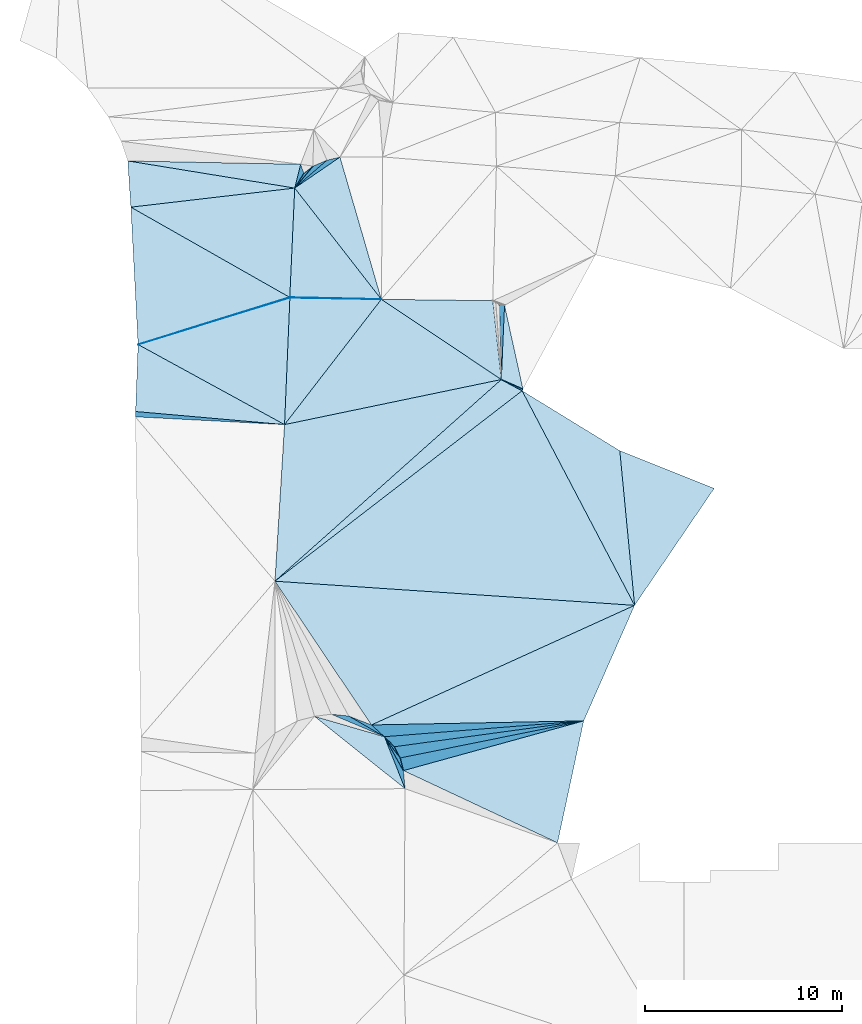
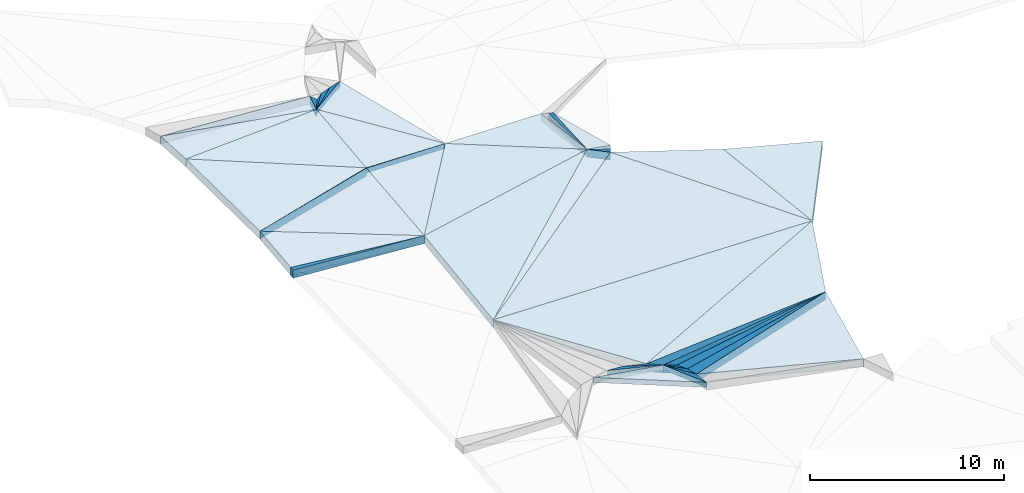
# One storey, part 7 of 23: 39 slabs, 5 elements without a shape of their own.
"""IFC2X3 building model written with IfcOpenShell, lengths in metres."""

import ifcopenshell
import ifcopenshell.guid

model = None  # the IFC model being written
_history = None  # IfcOwnerHistory: only IFC2X3 demands one
_inside = {}  # id of a spatial element -> (the spatial element, [elements in it])
_under = {}  # id of a project, library or spatial element -> (it, [spatial elements below it])
_declared = {}  # id of a project -> (the project, [libraries it declares])
_typed = {}  # id of a type object -> (the type object, [elements of that type])
_made_of = {}  # id of a material, layer set ... -> (it, [elements and type objects made of it])


def new_model(schema):
    """Start an empty IFC model of exactly this schema.

    Asked for "IFC4X3", IfcOpenShell would pick the latest addendum, in which some entities
    have other attributes; the version numbers below select the first issue.
    IFC2X3 requires an IfcOwnerHistory on every rooted entity: one is made here for all.
    """
    global model, _history
    if schema == "IFC4X3":
        model = ifcopenshell.file(schema_version=(4, 3, 0, 0))
    else:
        model = ifcopenshell.file(schema=schema)
    _inside.clear()
    _under.clear()
    _declared.clear()
    _typed.clear()
    _made_of.clear()
    _history = None
    if model.schema == "IFC2X3":
        org = make("IfcOrganization", Name="unknown")
        user = make(
            "IfcPersonAndOrganization",
            ThePerson=make("IfcPerson", FamilyName="unknown"),
            TheOrganization=org,
        )
        app = make(
            "IfcApplication",
            ApplicationDeveloper=org,
            Version="unknown",
            ApplicationFullName="unknown",
            ApplicationIdentifier="unknown",
        )
        _history = make(
            "IfcOwnerHistory",
            OwningUser=user,
            OwningApplication=app,
            ChangeAction="ADDED",
            CreationDate=0,
        )
    return model


def make(cls, **values):
    """One entity of the class cls with the attributes given. An attribute that is None is left unset."""
    return model.create_entity(
        cls, **{name: value for name, value in values.items() if value is not None}
    )


def entity(cls, *values):
    """Any entity or typed value of the class cls, its attributes in the order of the schema. None: left unset."""
    e = model.create_entity(cls)
    for i, value in enumerate(values):
        if value is not None:
            e[i] = value
    return e


def rooted(cls, **values):
    """An entity with a GlobalId (a new one), such as an element, a storey or a relation."""
    return make(cls, GlobalId=ifcopenshell.guid.new(), OwnerHistory=_history, **values)


def si_unit(unit_type, name, prefix=None):
    """IfcSIUnit, for example si_unit("LENGTHUNIT", "METRE", prefix="MILLI")."""
    return make("IfcSIUnit", UnitType=unit_type, Prefix=prefix, Name=name)


def converted_unit(unit_type, name, factor, base, dimensions=None, offset=None):
    """IfcConversionBasedUnit, such as the inch: factor (a typed value) times the base unit."""
    return make(
        "IfcConversionBasedUnit"
        if offset is None
        else "IfcConversionBasedUnitWithOffset",
        ConversionOffset=offset,
        Dimensions=None
        if dimensions is None
        else entity("IfcDimensionalExponents", *dimensions),
        UnitType=unit_type,
        Name=name,
        ConversionFactor=make(
            "IfcMeasureWithUnit", ValueComponent=factor, UnitComponent=base
        ),
    )


def assignment(units):
    """IfcUnitAssignment: the units of a project."""
    return None if units is None else make("IfcUnitAssignment", Units=units)


def point(xyz):
    """IfcCartesianPoint."""
    return None if xyz is None else make("IfcCartesianPoint", Coordinates=xyz)


def direction(xyz):
    """IfcDirection."""
    return None if xyz is None else make("IfcDirection", DirectionRatios=xyz)


def frame(location, z_axis=None, x_axis=None):
    """IfcAxis2Placement3D, a coordinate frame: its origin and axes. An axis left out is left unset."""
    return make(
        "IfcAxis2Placement3D",
        Location=point(location),
        Axis=direction(z_axis),
        RefDirection=direction(x_axis),
    )


def origin():
    """The frame at (0, 0, 0) with its axes left unset."""
    return frame((0.0, 0.0, 0.0))


def place(relative_to, where):
    """IfcLocalPlacement: puts the frame where relative to a parent placement (None: the world)."""
    return make(
        "IfcLocalPlacement", PlacementRelTo=relative_to, RelativePlacement=where
    )


def context(
    kind, dimensions, precision=None, world=None, true_north=None, identifier=None
):
    """IfcGeometricRepresentationContext, for example the 3D "Model" context."""
    return make(
        "IfcGeometricRepresentationContext",
        ContextIdentifier=identifier,
        ContextType=kind,
        CoordinateSpaceDimension=dimensions,
        Precision=precision,
        WorldCoordinateSystem=world,
        TrueNorth=true_north,
    )


def subcontext(parent, identifier, kind, view, scale=None):
    """IfcGeometricRepresentationSubContext, for example "Body" below "Model"."""
    return make(
        "IfcGeometricRepresentationSubContext",
        ContextIdentifier=identifier,
        ContextType=kind,
        ParentContext=parent,
        TargetScale=scale,
        TargetView=view,
    )


def project(units=None, contexts=None):
    """IfcProject with its units and contexts."""
    return rooted(
        "IfcProject",
        Name="project",
        RepresentationContexts=contexts,
        UnitsInContext=assignment(units),
    )


def spatial(cls, under=None, at=None, **own):
    """A site, building, storey or space (cls), placed at a placement, below another one or the project."""
    s = rooted(cls, ObjectPlacement=at, **own)
    if under is not None:
        _under.setdefault(under.id(), (under, []))[1].append(s)
    return s


def polyline(points):
    """IfcPolyline through the points."""
    return make("IfcPolyline", Points=[point(p) for p in points])


def outline(outer, holes=None, kind="AREA"):
    """IfcArbitraryClosedProfileDef: a profile drawn as a closed curve; with holes, ...WithVoids."""
    if holes is None:
        return make("IfcArbitraryClosedProfileDef", ProfileType=kind, OuterCurve=outer)
    return make(
        "IfcArbitraryProfileDefWithVoids",
        ProfileType=kind,
        OuterCurve=outer,
        InnerCurves=holes,
    )


def extrude(swept, where, along, depth):
    """IfcExtrudedAreaSolid: the profile swept, set in the frame where, extruded along a direction by depth."""
    return make(
        "IfcExtrudedAreaSolid",
        SweptArea=swept,
        Position=where,
        ExtrudedDirection=direction(along),
        Depth=depth,
    )


def shape(context_of_items, identifier, shape_type, items):
    """IfcShapeRepresentation: the items that make up one representation, for example the "Body"."""
    return make(
        "IfcShapeRepresentation",
        ContextOfItems=context_of_items,
        RepresentationIdentifier=identifier,
        RepresentationType=shape_type,
        Items=items,
    )


def material(Name=None, Category=None):
    """IfcMaterial."""
    return make("IfcMaterial", Name=Name, Category=Category)


def layer(
    of_material, thickness, ventilated=None, Name=None, Category=None, Priority=None
):
    """IfcMaterialLayer: one layer of a wall or slab, of a material (None: an air gap)."""
    return make(
        "IfcMaterialLayer",
        Material=of_material,
        LayerThickness=thickness,
        IsVentilated=ventilated,
        Name=Name,
        Category=Category,
        Priority=Priority,
    )


def layer_set(layers, Name=None):
    """IfcMaterialLayerSet."""
    return make("IfcMaterialLayerSet", MaterialLayers=layers, LayerSetName=Name)


def made_of(thing, what):
    """Note that an element or type object is made of a material, layer set ...; save() writes the relation."""
    if what is not None:
        _made_of.setdefault(what.id(), (what, []))[1].append(thing)
    return thing


def type_object(cls, material=None, **own):
    """A type object (cls), such as IfcWallType, which elements share."""
    return made_of(rooted(cls, **own), material)


def element(
    cls,
    number,
    at=None,
    inside=None,
    cuts=None,
    type_object=None,
    material=None,
    context=None,
    identifier="Body",
    shape_type=None,
    held_by="IfcProductDefinitionShape",
    body=None,
    shapes=None,
    **own,
):
    """One element of the class cls, such as IfcWall. Its Tag is "e" and its number.

    at: its placement. inside: the storey or other place that contains it. cuts: it is an
    opening in that element (IfcRelVoidsElement). A single representation is given by context,
    identifier, shape_type and body (its items); several are given by shapes. held_by: the class
    of the entity that holds the representations. save() writes the other relations.
    """
    e = rooted(cls, Tag="e%d" % number, ObjectPlacement=at, **own)
    if body is not None:
        shapes = [shape(context, identifier, shape_type, body)]
    if shapes is not None:
        e.Representation = make(held_by, Representations=shapes)
    if inside is not None:
        _inside.setdefault(inside.id(), (inside, []))[1].append(e)
    if cuts is not None:
        rooted(
            "IfcRelVoidsElement", RelatingBuildingElement=cuts, RelatedOpeningElement=e
        )
    if type_object is not None:
        _typed.setdefault(type_object.id(), (type_object, []))[1].append(e)
    return made_of(e, material)


def aggregate(whole, parts):
    """IfcRelAggregates: a whole, such as a stair, and the parts it consists of."""
    return rooted("IfcRelAggregates", RelatingObject=whole, RelatedObjects=parts)


def save(model, path):
    """Write the relations noted so far, then the file.

    IfcRelAggregates (storeys below a building ...), IfcRelContainedInSpatialStructure (elements
    in a storey), IfcRelDefinesByType, IfcRelAssociatesMaterial and IfcRelDeclares: one each for
    every whole, place, type object, material and project.
    """
    for whole, parts in _under.values():
        aggregate(whole, parts)
    for where, things in _inside.values():
        rooted(
            "IfcRelContainedInSpatialStructure",
            RelatedElements=things,
            RelatingStructure=where,
        )
    for kind, things in _typed.values():
        rooted("IfcRelDefinesByType", RelatedObjects=things, RelatingType=kind)
    for what, things in _made_of.values():
        rooted("IfcRelAssociatesMaterial", RelatedObjects=things, RelatingMaterial=what)
    for by, libraries in _declared.values():
        rooted("IfcRelDeclares", RelatingContext=by, RelatedDefinitions=libraries)
    model.write(path)


model = new_model("IFC2X3")

# Units and contexts
model_context = context("Model", 3, precision=1e-05, world=origin(), true_north=direction((0.7716245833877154, 0.6360782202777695)))
body_context = subcontext(model_context, "Body", "Model", "MODEL_VIEW")
ifc_project = project(units=[si_unit("LENGTHUNIT", "METRE"), converted_unit("PLANEANGLEUNIT", "DEGREE", entity("IfcPlaneAngleMeasure", 0.017453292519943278), si_unit("PLANEANGLEUNIT", "RADIAN"), dimensions=[0, 0, 0, 0, 0, 0, 0]), si_unit("AREAUNIT", "SQUARE_METRE")], contexts=[model_context])

# Site, building, storey
site_placement = place(None, origin())
site = spatial("IfcSite", under=ifc_project, at=site_placement, Name="Default", CompositionType="ELEMENT")
building_placement = place(site_placement, origin())
building = spatial("IfcBuilding", under=site, at=building_placement, Name="<Building Name>", CompositionType="ELEMENT")
storey_placement = place(building_placement, origin())
storey = spatial("IfcBuildingStorey", under=building, at=storey_placement, Name="00 - HAV", CompositionType="ELEMENT", Elevation=0.0)

# Slabs
slab_1_placement = place(storey_placement, frame((224.3175317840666, 93.71309800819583, 32.7900000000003)))
slab_1 = element("IfcSlab", 1, at=slab_1_placement, inside=storey, Name="Floor:771 Grøntarealer", ObjectType="Floor:771 Grøntarealer", PredefinedType="NOTDEFINED")
ifc_material_1 = material(Name="815 - Terrain, Grøntareal")
ifc_layer_1 = layer(ifc_material_1, 0.02)
ifc_material_2 = material(Name="Site - Soil - Jordlag")
ifc_layer_2 = layer(ifc_material_2, 0.30000000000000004)
ifc_layer_set_1 = layer_set([ifc_layer_1, ifc_layer_2], Name="Floor:771 Grøntarealer")
slab_type_1 = type_object("IfcSlabType", Name="Floor:771 Grøntarealer", PredefinedType="NOTDEFINED")
slab_2_placement = place(slab_1_placement, origin())
slab_2 = element("IfcSlab", 2, at=slab_2_placement, type_object=slab_type_1, material=ifc_layer_set_1, Name="Floor:771 Grøntarealer", ObjectType="Floor:771 Grøntarealer", PredefinedType="NOTDEFINED", context=body_context, shape_type="SweptSolid", body=[
    extrude(outline(polyline([(1.1527983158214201, 0.777773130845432), (0.4886403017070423, 0.6274596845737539), (-1.1527983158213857, -0.777773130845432), (1.1527983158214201, 0.777773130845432)])), frame((1.3980110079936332, 38.20045547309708, 5.314999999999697), z_axis=(-0.08913343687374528, 0.12415645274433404, 0.9882511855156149), x_axis=(0.9960196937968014, 0.011110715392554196, 0.08843823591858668)), (-0.08843823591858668, 0.12465260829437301, -0.9882511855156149), 0.3200000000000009),
])
slab_3_placement = place(slab_1_placement, origin())
slab_3 = element("IfcSlab", 3, at=slab_3_placement, type_object=slab_type_1, material=ifc_layer_set_1, Name="Floor:771 Grøntarealer", ObjectType="Floor:771 Grøntarealer", PredefinedType="NOTDEFINED", context=body_context, shape_type="SweptSolid", body=[
    extrude(outline(polyline([(-0.866035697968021, 3.733954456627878), (-3.1628147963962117, 2.1654182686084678), (1.2315072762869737, -3.4843634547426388), (-0.866035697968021, 3.733954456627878)])), frame((3.412120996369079, 35.25345493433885, 5.184204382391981), z_axis=(0.0176911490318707, -0.03226166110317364, 0.9993228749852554), x_axis=(0.9998434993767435, 0.000570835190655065, -0.01768193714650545)), (0.01768193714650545, -0.03226671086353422, -0.9993228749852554), 0.3200000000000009),
])
slab_4_placement = place(slab_1_placement, origin())
slab_4 = element("IfcSlab", 4, at=slab_4_placement, type_object=slab_type_1, material=ifc_layer_set_1, Name="Floor:771 Grøntarealer", ObjectType="Floor:771 Grøntarealer", PredefinedType="NOTDEFINED", context=body_context, shape_type="SweptSolid", body=[
    extrude(outline(polyline([(0.8191781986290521, 0.7044125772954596), (0.10673803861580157, 0.4055329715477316), (-0.8191781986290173, -0.7044125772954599), (0.8191781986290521, 0.7044125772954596)])), frame((1.067253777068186, 38.122195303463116, 5.294999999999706), z_axis=(0.06487353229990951, -0.05392457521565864, 0.9964354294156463), x_axis=(0.9978934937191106, 0.00350566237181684, -0.06477874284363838)), (0.06477874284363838, -0.054038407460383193, -0.9964354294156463), 0.3200000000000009),
])
slab_5_placement = place(slab_1_placement, origin())
slab_5 = element("IfcSlab", 5, at=slab_5_placement, type_object=slab_type_1, material=ifc_layer_set_1, Name="Floor:771 Grøntarealer", ObjectType="Floor:771 Grøntarealer", PredefinedType="NOTDEFINED", context=body_context, shape_type="SweptSolid", body=[
    extrude(outline(polyline([(0.46198289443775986, 0.5557848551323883), (0.000363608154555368, 0.18821495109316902), (-0.4619828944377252, -0.5557848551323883), (0.46198289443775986, 0.5557848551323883)])), frame((0.7117840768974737, 37.97172506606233, 5.309999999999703)), (0.0, 0.0, -1.0), 0.3200000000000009),
])
slab_6_placement = place(slab_1_placement, origin())
slab_6 = element("IfcSlab", 6, at=slab_6_placement, type_object=slab_type_1, material=ifc_layer_set_1, Name="Floor:771 Grøntarealer", ObjectType="Floor:771 Grøntarealer", PredefinedType="NOTDEFINED", context=body_context, shape_type="SweptSolid", body=[
    extrude(outline(polyline([(-2.194446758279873, 2.8792347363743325), (-2.4442554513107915, -2.6704315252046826), (2.1993197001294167, -2.770979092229), (-2.194446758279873, 2.8792347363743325)])), frame((2.444181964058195, 34.539689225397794, 5.177854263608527), z_axis=(0.007754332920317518, -0.03998958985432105, 0.9991700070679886), x_axis=(0.9999699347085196, 0.0003101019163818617, -0.0077481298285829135)), (0.0077481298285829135, -0.03999079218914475, -0.9991700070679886), 0.3200000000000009),
])
slab_7_placement = place(slab_1_placement, origin())
slab_7 = element("IfcSlab", 7, at=slab_7_placement, type_object=slab_type_1, material=ifc_layer_set_1, Name="Floor:771 Grøntarealer", ObjectType="Floor:771 Grøntarealer", PredefinedType="NOTDEFINED", context=body_context, shape_type="SweptSolid", body=[
    extrude(outline(polyline([(-2.3218047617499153, 0.04947371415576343), (-2.3167992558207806, 0.027680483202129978), (2.3218047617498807, -0.04947371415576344), (-2.3218047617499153, 0.04947371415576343)])), frame((2.3217177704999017, 31.821122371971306, 5.069999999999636), z_axis=(0.008656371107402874, 0.0019881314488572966, 0.9999605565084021), x_axis=(0.9999625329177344, -1.721064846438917e-05, -0.008656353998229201)), (0.008656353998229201, 0.0019882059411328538, -0.9999605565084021), 0.3200000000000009),
])
slab_8_placement = place(slab_1_placement, origin())
slab_8 = element("IfcSlab", 8, at=slab_8_placement, type_object=slab_type_1, material=ifc_layer_set_1, Name="Floor:771 Grøntarealer", ObjectType="Floor:771 Grøntarealer", PredefinedType="NOTDEFINED", context=body_context, shape_type="SweptSolid", body=[
    extrude(outline(polyline([(-0.4715406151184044, 2.127107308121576), (-0.6365014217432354, -1.6366637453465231), (0.4715406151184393, -2.127107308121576), (-0.4715406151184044, 2.127107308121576)])), frame((11.361239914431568, 29.34268079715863, 5.072670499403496), z_axis=(-0.1339168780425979, 0.01970943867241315, 0.9907965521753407), x_axis=(0.9909925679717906, 0.00266341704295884, 0.13389038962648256)), (-0.13389038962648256, 0.01988858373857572, -0.9907965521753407), 0.3200000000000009),
])
aggregate(slab_1, [slab_2, slab_3, slab_4, slab_5, slab_6, slab_7, slab_8])

slab_9_placement = place(storey_placement, frame((222.4392111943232, 65.35219263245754, 32.77999999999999)))
slab_9 = element("IfcSlab", 9, at=slab_9_placement, inside=storey, Name="Floor:771 Grøntarealer", ObjectType="Floor:771 Grøntarealer", PredefinedType="NOTDEFINED")
slab_10_placement = place(slab_9_placement, origin())
slab_10 = element("IfcSlab", 10, at=slab_10_placement, type_object=slab_type_1, material=ifc_layer_set_1, Name="Floor:771 Grøntarealer", ObjectType="Floor:771 Grøntarealer", PredefinedType="NOTDEFINED", context=body_context, shape_type="SweptSolid", body=[
    extrude(outline(polyline([(0.5279610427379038, -1.3182875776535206), (0.44501464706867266, -0.40110717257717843), (-0.5279610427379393, 1.3182875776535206), (0.5279610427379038, -1.3182875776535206)])), frame((7.203044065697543, 36.62801733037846, 4.610000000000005), z_axis=(-0.13609333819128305, -0.0013917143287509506, 0.9906950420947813), x_axis=(0.9906960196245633, -0.0001911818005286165, 0.13609320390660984)), (-0.13609320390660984, -0.001404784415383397, -0.9906950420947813), 0.3200000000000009),
])
slab_11_placement = place(slab_9_placement, origin())
slab_11 = element("IfcSlab", 11, at=slab_11_placement, type_object=slab_type_1, material=ifc_layer_set_1, Name="Floor:771 Grøntarealer", ObjectType="Floor:771 Grøntarealer", PredefinedType="NOTDEFINED", context=body_context, shape_type="SweptSolid", body=[
    extrude(outline(polyline([(2.297106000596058, -1.8381999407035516), (1.250302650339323, 0.802008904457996), (-2.297106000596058, 1.8381999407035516), (2.297106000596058, -1.8381999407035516)])), frame((5.4305352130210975, 37.14322347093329, 4.525000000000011), z_axis=(-0.03670887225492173, 0.03845643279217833, 0.9985857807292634), x_axis=(0.9993260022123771, 0.0014126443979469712, 0.036681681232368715)), (-0.036681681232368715, 0.03848236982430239, -0.9985857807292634), 0.3200000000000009),
])
slab_12_placement = place(slab_9_placement, origin())
slab_12 = element("IfcSlab", 12, at=slab_12_placement, type_object=slab_type_1, material=ifc_layer_set_1, Name="Floor:771 Grøntarealer", ObjectType="Floor:771 Grøntarealer", PredefinedType="NOTDEFINED", context=body_context, shape_type="SweptSolid", body=[
    extrude(outline(polyline([(0.49674784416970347, -0.8538100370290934), (0.32607553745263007, -0.2140671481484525), (-0.49674784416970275, 0.8538100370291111), (0.49674784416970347, -0.8538100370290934)])), frame((7.161956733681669, 37.08661500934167, 4.605000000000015), z_axis=(-0.24216994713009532, -0.06255323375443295, 0.9682152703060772), x_axis=(0.9702338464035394, -0.015613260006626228, 0.24166611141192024)), (-0.24166611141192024, -0.06447232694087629, -0.9682152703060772), 0.3200000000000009),
])
slab_13_placement = place(slab_9_placement, origin())
slab_13 = element("IfcSlab", 13, at=slab_13_placement, type_object=slab_type_1, material=ifc_layer_set_1, Name="Floor:771 Grøntarealer", ObjectType="Floor:771 Grøntarealer", PredefinedType="NOTDEFINED", context=body_context, shape_type="SweptSolid", body=[
    extrude(outline(polyline([(0.45447889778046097, -0.49779406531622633), (0.1124311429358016, 0.04700253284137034), (-0.454478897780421, 0.4977940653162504), (0.45447889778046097, -0.49779406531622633)])), frame((7.079160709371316, 37.407153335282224, 4.605000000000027), z_axis=(-0.47812314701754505, -0.25252002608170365, 0.8412085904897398), x_axis=(0.8782928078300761, -0.1374663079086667, 0.45793532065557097)), (-0.45793532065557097, -0.28751234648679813, -0.8412085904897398), 0.3200000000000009),
])
slab_14_placement = place(slab_9_placement, origin())
slab_14 = element("IfcSlab", 14, at=slab_14_placement, type_object=slab_type_1, material=ifc_layer_set_1, Name="Floor:771 Grøntarealer", ObjectType="Floor:771 Grøntarealer", PredefinedType="NOTDEFINED", context=body_context, shape_type="SweptSolid", body=[
    extrude(outline(polyline([(0.9050654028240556, -0.525434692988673), (0.24495740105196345, 0.07294430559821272), (-0.9050654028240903, 0.5254346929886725), (0.9050654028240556, -0.525434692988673)])), frame((5.774995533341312, 38.470428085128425, 4.500000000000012), z_axis=(0.012055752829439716, 0.09678902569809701, 0.9952319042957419), x_axis=(0.9999273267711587, -0.0011669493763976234, -0.011999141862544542)), (0.011999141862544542, 0.09679606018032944, -0.9952319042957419), 0.3200000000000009),
])
slab_15_placement = place(slab_9_placement, origin())
slab_15 = element("IfcSlab", 15, at=slab_15_placement, type_object=slab_type_1, material=ifc_layer_set_1, Name="Floor:771 Grøntarealer", ObjectType="Floor:771 Grøntarealer", PredefinedType="NOTDEFINED", context=body_context, shape_type="SweptSolid", body=[
    extrude(outline(polyline([(1.3518153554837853, -0.5722720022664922), (-0.45846372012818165, 0.4783419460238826), (-1.3518153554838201, 0.5722720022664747), (1.3518153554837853, -0.5722720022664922)])), frame((5.3283887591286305, 38.51698331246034, 4.4900000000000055), z_axis=(-0.017581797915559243, 0.04587613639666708, 0.9987924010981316), x_axis=(0.9998454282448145, 0.0008067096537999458, 0.017563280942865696)), (-0.017563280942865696, 0.045883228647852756, -0.9987924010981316), 0.3200000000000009),
])
aggregate(slab_9, [slab_10, slab_11, slab_12, slab_13, slab_14, slab_15])

slab_16_placement = place(storey_placement, frame((210.63176110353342, 32.75602782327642, 31.369999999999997)))
slab_16 = element("IfcSlab", 16, at=slab_16_placement, inside=storey, Name="Floor:761 Asfalt - Kjørearealer", ObjectType="Floor:761 Asfalt - Kjørearealer", PredefinedType="NOTDEFINED")
ifc_material_3 = material(Name="Site - Asphalt - Asfaltbetong")
ifc_layer_3 = layer(ifc_material_3, 0.03)
ifc_material_4 = material(Name="A_Default_Building_Part")
ifc_layer_4 = layer(ifc_material_4, 0.07)
ifc_material_5 = material(Name="Site - Gravel - Stabilitet grus")
ifc_layer_5 = layer(ifc_material_5, 0.2)
ifc_material_6 = material(Name="Site - Gravel - Bunnsikringsgrus")
ifc_layer_6 = layer(ifc_material_6, 0.2)
ifc_layer_set_2 = layer_set([ifc_layer_3, ifc_layer_4, ifc_layer_5, ifc_layer_6], Name="Floor:761 Asfalt - Kjørearealer")
slab_type_2 = type_object("IfcSlabType", Name="Floor:761 Asfalt - Kjørearealer", PredefinedType="NOTDEFINED")
slab_17_placement = place(slab_16_placement, origin())
slab_17 = element("IfcSlab", 17, at=slab_17_placement, type_object=slab_type_2, material=ifc_layer_set_2, Name="Floor:761 Asfalt - Kjørearealer", ObjectType="Floor:761 Asfalt - Kjørearealer", PredefinedType="NOTDEFINED", context=body_context, shape_type="SweptSolid", body=[
    extrude(outline(polyline([(3.6607832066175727, -3.3780851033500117), (3.9321151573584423, 3.057983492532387), (-3.773818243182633, 0.6968629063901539), (3.6607832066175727, -3.3780851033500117)])), frame((9.760992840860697, 89.74495693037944, 6.512074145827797), z_axis=(0.034435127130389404, -0.04027022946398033, 0.9985952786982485), x_axis=(0.999406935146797, 0.0013875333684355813, -0.03440716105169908)), (0.03440716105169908, -0.04029412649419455, -0.9985952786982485), 0.49999999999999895),
])
slab_18_placement = place(slab_16_placement, origin())
slab_18 = element("IfcSlab", 18, at=slab_18_placement, type_object=slab_type_2, material=ifc_layer_set_2, Name="Floor:761 Asfalt - Kjørearealer", ObjectType="Floor:761 Asfalt - Kjørearealer", PredefinedType="NOTDEFINED", context=body_context, shape_type="SweptSolid", body=[
    extrude(outline(polyline([(4.44863920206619, -0.704245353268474), (-2.9845803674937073, 3.3732228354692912), (-3.1128654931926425, -0.02848892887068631), (4.44863920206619, -0.704245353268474)])), frame((8.972777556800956, 87.07154101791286, 6.412737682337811), z_axis=(0.02853720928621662, -0.05102883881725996, 0.9982893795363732), x_axis=(0.9995927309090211, 0.0014568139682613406, -0.02850000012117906)), (0.02850000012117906, -0.0510496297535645, -0.9982893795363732), 0.49999999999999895),
])
slab_19_placement = place(slab_16_placement, origin())
slab_19 = element("IfcSlab", 19, at=slab_19_placement, type_object=slab_type_2, material=ifc_layer_set_2, Name="Floor:761 Asfalt - Kjørearealer", ObjectType="Floor:761 Asfalt - Kjørearealer", PredefinedType="NOTDEFINED", context=body_context, shape_type="SweptSolid", body=[
    extrude(outline(polyline([(3.792611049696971, -0.20618465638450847), (-3.76844062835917, 0.4746218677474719), (-3.780121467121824, 0.2050600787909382), (3.792611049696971, -0.20618465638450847)])), frame((9.628311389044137, 86.57276335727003, 6.365206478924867), z_axis=(0.02635597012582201, -0.07530715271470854, 0.9968120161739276), x_axis=(0.9996526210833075, 0.0019854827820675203, -0.02628107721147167)), (0.02628107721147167, -0.07533332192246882, -0.9968120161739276), 0.49999999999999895),
])
slab_20_placement = place(slab_16_placement, origin())
slab_20 = element("IfcSlab", 20, at=slab_20_placement, type_object=slab_type_2, material=ifc_layer_set_2, Name="Floor:761 Asfalt - Kjørearealer", ObjectType="Floor:761 Asfalt - Kjørearealer", PredefinedType="NOTDEFINED", context=body_context, shape_type="SweptSolid", body=[
    extrude(outline(polyline([(3.8909800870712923, 1.0458484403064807), (3.8859256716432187, 1.0698161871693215), (-3.885925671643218, -1.069816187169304), (3.8909800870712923, 1.0458484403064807)])), frame((9.837591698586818, 91.63186186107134, 6.590000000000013), z_axis=(0.1390432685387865, -0.38643951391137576, 0.9117738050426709), x_axis=(0.9902863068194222, 0.05425886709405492, -0.12801955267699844)), (0.12801955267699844, -0.39023008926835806, -0.9117738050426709), 0.49999999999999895),
])
slab_21_placement = place(slab_16_placement, origin())
slab_21 = element("IfcSlab", 21, at=slab_21_placement, type_object=slab_type_2, material=ifc_layer_set_2, Name="Floor:761 Asfalt - Kjørearealer", ObjectType="Floor:761 Asfalt - Kjørearealer", PredefinedType="NOTDEFINED", context=body_context, shape_type="SweptSolid", body=[
    extrude(outline(polyline([(4.006568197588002, -2.9610366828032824), (4.2566884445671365, 2.5886155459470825), (-4.066244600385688, 1.6369404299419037), (4.006568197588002, -2.9610366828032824)])), frame((9.684313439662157, 95.77766055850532, 6.836244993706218), z_axis=(0.050494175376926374, -0.04186240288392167, 0.9978466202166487), x_axis=(0.9987243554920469, 0.002116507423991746, -0.05044979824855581)), (0.05044979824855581, -0.04191587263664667, -0.9978466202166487), 0.49999999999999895),
])
slab_22_placement = place(slab_16_placement, origin())
slab_22 = element("IfcSlab", 22, at=slab_22_placement, type_object=slab_type_2, material=ifc_layer_set_2, Name="Floor:761 Asfalt - Kjørearealer", ObjectType="Floor:761 Asfalt - Kjørearealer", PredefinedType="NOTDEFINED", context=body_context, shape_type="SweptSolid", body=[
    extrude(outline(polyline([(5.492344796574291, 0.2521486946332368), (-2.576517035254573, 4.857055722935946), (-2.210071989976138, -2.125344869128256), (5.492344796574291, 0.2521486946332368)])), frame((8.19774623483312, 92.56275338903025, 6.712034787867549), z_axis=(0.03965611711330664, -0.06089030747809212, 0.9973563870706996), x_axis=(0.9992133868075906, 0.002416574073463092, -0.03958241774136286)), (0.03958241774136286, -0.06093824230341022, -0.9973563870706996), 0.49999999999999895),
])
slab_23_placement = place(slab_16_placement, origin())
slab_23 = element("IfcSlab", 23, at=slab_23_placement, type_object=slab_type_2, material=ifc_layer_set_2, Name="Floor:761 Asfalt - Kjørearealer", ObjectType="Floor:761 Asfalt - Kjørearealer", PredefinedType="NOTDEFINED", context=body_context, shape_type="SweptSolid", body=[
    extrude(outline(polyline([(4.089672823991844, -1.2945660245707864), (4.390974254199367, -0.08757909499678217), (-4.390974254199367, 0.08757909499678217), (4.089672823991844, -1.2945660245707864)])), frame((9.850985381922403, 99.66493851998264, 6.9500000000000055), z_axis=(0.04985841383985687, -0.012429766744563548, 0.9986789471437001), x_axis=(0.9987562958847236, 0.0006205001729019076, -0.049854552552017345)), (0.049854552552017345, -0.012445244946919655, -0.9986789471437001), 0.49999999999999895),
])
slab_24_placement = place(slab_16_placement, origin())
slab_24 = element("IfcSlab", 24, at=slab_24_placement, type_object=slab_type_2, material=ifc_layer_set_2, Name="Floor:761 Asfalt - Kjørearealer", ObjectType="Floor:761 Asfalt - Kjørearealer", PredefinedType="NOTDEFINED", context=body_context, shape_type="SweptSolid", body=[
    extrude(outline(polyline([(4.424695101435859, 0.43675753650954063), (-4.055280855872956, 1.8230142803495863), (-3.8973131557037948, -0.522970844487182), (4.424695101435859, 0.43675753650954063)])), frame((9.516030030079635, 97.93159509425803, 6.933682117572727), z_axis=(0.04824898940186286, -0.02230155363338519, 0.998586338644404), x_axis=(0.9988353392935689, 0.001077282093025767, -0.04823696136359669)), (0.04823696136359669, -0.022327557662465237, -0.998586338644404), 0.49999999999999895),
])
aggregate(slab_16, [slab_17, slab_18, slab_19, slab_20, slab_21, slab_22, slab_23, slab_24])

slab_25_placement = place(storey_placement, frame((222.56682960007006, 78.98489431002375, 36.43999999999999)))
slab_25 = element("IfcSlab", 25, at=slab_25_placement, inside=storey, Name="Floor:761 Asfalt - Kjørearealer", ObjectType="Floor:761 Asfalt - Kjørearealer", PredefinedType="NOTDEFINED")
slab_26_placement = place(slab_25_placement, origin())
slab_26 = element("IfcSlab", 26, at=slab_26_placement, type_object=slab_type_2, material=ifc_layer_set_2, Name="Floor:761 Asfalt - Kjørearealer", ObjectType="Floor:761 Asfalt - Kjørearealer", PredefinedType="NOTDEFINED", context=body_context, shape_type="SweptSolid", body=[
    extrude(outline(polyline([(3.4530839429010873, -3.978214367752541), (4.782369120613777, 2.2088286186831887), (-4.374022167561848, -0.308213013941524), (3.4530839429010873, -3.978214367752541)])), frame((11.884350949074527, 22.90488127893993, 1.2350000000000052), z_axis=(-0.05223409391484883, 0.011206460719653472, 0.9985719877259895), x_axis=(0.9986348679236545, 0.0005861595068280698, 0.05223080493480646)), (-0.05223080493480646, 0.011221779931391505, -0.9985719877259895), 0.49999999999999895),
])
slab_27_placement = place(slab_25_placement, origin())
slab_27 = element("IfcSlab", 27, at=slab_27_placement, type_object=slab_type_2, material=ifc_layer_set_2, Name="Floor:761 Asfalt - Kjørearealer", ObjectType="Floor:761 Asfalt - Kjørearealer", PredefinedType="NOTDEFINED", context=body_context, shape_type="SweptSolid", body=[
    extrude(outline(polyline([(4.100157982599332, -2.834387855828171), (6.68643282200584, 3.0242794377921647), (-6.686432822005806, -3.0242794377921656), (4.100157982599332, -2.834387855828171)])), frame((12.567147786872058, 27.943531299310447, 1.145000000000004), z_axis=(-0.05888318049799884, 0.025939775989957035, 0.9979278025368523), x_axis=(0.9982648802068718, 0.0015300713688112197, 0.058863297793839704)), (-0.058863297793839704, 0.02598486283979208, -0.9979278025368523), 0.49999999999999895),
])
slab_28_placement = place(slab_25_placement, origin())
slab_28 = element("IfcSlab", 28, at=slab_28_placement, type_object=slab_type_2, material=ifc_layer_set_2, Name="Floor:761 Asfalt - Kjørearealer", ObjectType="Floor:761 Asfalt - Kjørearealer", PredefinedType="NOTDEFINED", context=body_context, shape_type="SweptSolid", body=[
    extrude(outline(polyline([(5.387763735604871, 0.40170956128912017), (-5.398744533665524, 0.20718615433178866), (-4.737542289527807, -0.38998349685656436), (5.387763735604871, 0.40170956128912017)])), frame((11.281735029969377, 24.708819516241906, 1.1510114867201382), z_axis=(-0.05875354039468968, 0.018653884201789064, 0.9980982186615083), x_axis=(0.9982725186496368, 0.0010978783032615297, 0.058743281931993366)), (-0.058743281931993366, 0.018686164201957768, -0.9980982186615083), 0.49999999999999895),
])
slab_29_placement = place(slab_25_placement, origin())
slab_29 = element("IfcSlab", 29, at=slab_29_placement, type_object=slab_type_2, material=ifc_layer_set_2, Name="Floor:761 Asfalt - Kjørearealer", ObjectType="Floor:761 Asfalt - Kjørearealer", PredefinedType="NOTDEFINED", context=body_context, shape_type="SweptSolid", body=[
    extrude(outline(polyline([(5.047811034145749, 0.6199879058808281), (-5.085340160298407, -0.0640054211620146), (-4.586179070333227, -0.5888274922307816), (5.047811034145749, 0.6199879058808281)])), frame((11.625001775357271, 24.441910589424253, 1.2217885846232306), z_axis=(-0.07067144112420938, 0.18115062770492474, 0.9809128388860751), x_axis=(0.9974996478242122, 0.012834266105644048, 0.0694962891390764)), (-0.0694962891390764, 0.18160470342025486, -0.9809128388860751), 0.49999999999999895),
])
slab_30_placement = place(slab_25_placement, origin())
slab_30 = element("IfcSlab", 30, at=slab_30_placement, type_object=slab_type_2, material=ifc_layer_set_2, Name="Floor:761 Asfalt - Kjørearealer", ObjectType="Floor:761 Asfalt - Kjørearealer", PredefinedType="NOTDEFINED", context=body_context, shape_type="SweptSolid", body=[
    extrude(outline(polyline([(4.768376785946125, 0.9605378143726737), (-4.8506818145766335, -0.3618507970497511), (-4.549977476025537, -0.9305131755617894), (4.768376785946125, 0.9605378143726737)])), frame((11.896353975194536, 24.160888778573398, 1.2298914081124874), z_axis=(-0.04362332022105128, -0.023039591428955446, 0.9987823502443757), x_axis=(0.9990480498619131, -0.0010060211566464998, 0.04361171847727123)), (-0.04361171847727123, -0.023061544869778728, -0.9987823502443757), 0.49999999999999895),
])
slab_31_placement = place(slab_25_placement, origin())
slab_31 = element("IfcSlab", 31, at=slab_31_placement, type_object=slab_type_2, material=ifc_layer_set_2, Name="Floor:761 Asfalt - Kjørearealer", ObjectType="Floor:761 Asfalt - Kjørearealer", PredefinedType="NOTDEFINED", context=body_context, shape_type="SweptSolid", body=[
    extrude(outline(polyline([(4.594064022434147, 1.2672072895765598), (-4.725236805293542, -0.6191733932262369), (-4.5594701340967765, -1.2602049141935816), (4.594064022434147, 1.2672072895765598)])), frame((12.07096697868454, 23.85175739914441, 1.2341647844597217), z_axis=(-0.045888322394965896, -0.011853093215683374, 0.9988762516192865), x_axis=(0.9989465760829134, -0.000544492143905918, 0.0458850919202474)), (-0.0458850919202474, -0.011865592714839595, -0.9988762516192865), 0.49999999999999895),
])
slab_32_placement = place(slab_25_placement, origin())
slab_32 = element("IfcSlab", 32, at=slab_32_placement, type_object=slab_type_2, material=ifc_layer_set_2, Name="Floor:761 Asfalt - Kjørearealer", ObjectType="Floor:761 Asfalt - Kjørearealer", PredefinedType="NOTDEFINED", context=body_context, shape_type="SweptSolid", body=[
    extrude(outline(polyline([(0.061729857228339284, -4.382770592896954), (4.099706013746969, 1.5507737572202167), (-0.6889965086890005, 3.4610428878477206), (0.061729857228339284, -4.382770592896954)])), frame((19.180248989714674, 35.35979086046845, 1.460000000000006)), (0.0, 0.0, -1.0), 0.49999999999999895),
])
slab_33_placement = place(slab_25_placement, origin())
slab_33 = element("IfcSlab", 33, at=slab_33_placement, type_object=slab_type_2, material=ifc_layer_set_2, Name="Floor:761 Asfalt - Kjørearealer", ObjectType="Floor:761 Asfalt - Kjørearealer", PredefinedType="NOTDEFINED", context=body_context, shape_type="SweptSolid", body=[
    extrude(outline(polyline([(2.85965652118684, -5.441754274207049), (2.107379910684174, 2.4019106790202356), (-2.85965652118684, 5.441754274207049), (2.85965652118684, -5.441754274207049)])), frame((16.388215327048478, 36.41980069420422, 1.3100000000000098), z_axis=(-0.0641656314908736, -0.006141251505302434, 0.9979203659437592), x_axis=(0.9979392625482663, -0.00039487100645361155, 0.0641644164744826)), (-0.0641644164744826, -0.0061539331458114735, -0.9979203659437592), 0.49999999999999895),
])
slab_34_placement = place(slab_25_placement, origin())
slab_34 = element("IfcSlab", 34, at=slab_34_placement, type_object=slab_type_2, material=ifc_layer_set_2, Name="Floor:761 Asfalt - Kjørearealer", ObjectType="Floor:761 Asfalt - Kjørearealer", PredefinedType="NOTDEFINED", context=body_context, shape_type="SweptSolid", body=[
    extrude(outline(polyline([(9.760339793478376, -1.82273807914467), (4.050065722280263, 9.065515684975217), (-8.493830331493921, -0.5922206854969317), (9.760339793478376, -1.82273807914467)])), frame((9.48633444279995, 32.796225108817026, 1.1367307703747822), z_axis=(-0.031014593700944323, 0.011282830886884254, 0.9994552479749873), x_axis=(0.9995189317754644, 0.00035010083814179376, 0.031012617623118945)), (-0.031012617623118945, 0.011288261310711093, -0.9994552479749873), 0.49999999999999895),
])
slab_35_placement = place(slab_25_placement, origin())
slab_35 = element("IfcSlab", 35, at=slab_35_placement, type_object=slab_type_2, material=ifc_layer_set_2, Name="Floor:761 Asfalt - Kjørearealer", ObjectType="Floor:761 Asfalt - Kjørearealer", PredefinedType="NOTDEFINED", context=body_context, shape_type="SweptSolid", body=[
    extrude(outline(polyline([(9.35704315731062, 2.86446907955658), (-8.898737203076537, 4.070861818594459), (-4.000222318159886, -3.2184626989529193), (9.35704315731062, 2.86446907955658)])), frame((9.890261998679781, 28.123118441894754, 1.0599048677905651), z_axis=(-0.03373626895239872, -0.02950384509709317, 0.9989951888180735), x_axis=(0.9994307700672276, -0.0009959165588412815, 0.03372156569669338)), (-0.03372156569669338, -0.02952064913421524, -0.9989951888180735), 0.49999999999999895),
])
slab_36_placement = place(slab_25_placement, origin())
slab_36 = element("IfcSlab", 36, at=slab_36_placement, type_object=slab_type_2, material=ifc_layer_set_2, Name="Floor:761 Asfalt - Kjørearealer", ObjectType="Floor:761 Asfalt - Kjørearealer", PredefinedType="NOTDEFINED", context=body_context, shape_type="SweptSolid", body=[
    extrude(outline(polyline([(0.5588180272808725, -0.2415467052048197), (0.6064425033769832, -0.0533843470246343), (-0.5612768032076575, 0.23183218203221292), (0.5588180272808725, -0.2415467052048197)])), frame((13.008968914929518, 42.14985445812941, 1.2693807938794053), z_axis=(-0.3402166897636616, -0.806461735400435, 0.4836032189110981), x_axis=(0.9403470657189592, -0.2917771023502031, 0.17496719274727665)), (-0.17496719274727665, -0.8576213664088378, -0.4836032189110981), 0.49999999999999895),
])
slab_37_placement = place(slab_25_placement, origin())
slab_37 = element("IfcSlab", 37, at=slab_37_placement, type_object=slab_type_2, material=ifc_layer_set_2, Name="Floor:761 Asfalt - Kjørearealer", ObjectType="Floor:761 Asfalt - Kjørearealer", PredefinedType="NOTDEFINED", context=body_context, shape_type="SweptSolid", body=[
    extrude(outline(polyline([(6.304300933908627, 4.786553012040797), (5.245080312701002, 5.383839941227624), (-6.304300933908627, -4.786553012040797), (6.304300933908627, 4.786553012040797)])), frame((7.2655210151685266, 37.031824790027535, 1.0200000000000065), z_axis=(0.1057803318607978, -0.1656879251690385, 0.9804886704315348), x_axis=(0.9943895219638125, 0.01762541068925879, -0.1043015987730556)), (0.1043015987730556, -0.16662275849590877, -0.9804886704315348), 0.49999999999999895),
])
slab_38_placement = place(slab_25_placement, origin())
slab_38 = element("IfcSlab", 38, at=slab_38_placement, type_object=slab_type_2, material=ifc_layer_set_2, Name="Floor:761 Asfalt - Kjørearealer", ObjectType="Floor:761 Asfalt - Kjørearealer", PredefinedType="NOTDEFINED", context=body_context, shape_type="SweptSolid", body=[
    extrude(outline(polyline([(0.0474584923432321, -1.9048878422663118), (0.2109335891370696, 1.858697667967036), (-0.04745849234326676, 1.9048878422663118), (0.0474584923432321, -1.9048878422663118)])), frame((12.433715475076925, 44.337677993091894, 1.3550000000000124), z_axis=(0.001413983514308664, 0.007909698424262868, 0.9999677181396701), x_axis=(0.999999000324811, -1.1184194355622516e-05, -0.001413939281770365)), (0.001413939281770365, 0.007909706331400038, -0.9999677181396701), 0.49999999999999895),
])
slab_39_placement = place(slab_25_placement, origin())
slab_39 = element("IfcSlab", 39, at=slab_39_placement, type_object=slab_type_2, material=ifc_layer_set_2, Name="Floor:761 Asfalt - Kjørearealer", ObjectType="Floor:761 Asfalt - Kjørearealer", PredefinedType="NOTDEFINED", context=body_context, shape_type="SweptSolid", body=[
    extrude(outline(polyline([(3.043692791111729, -2.0332754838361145), (2.611735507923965, 1.96522584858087), (-3.043692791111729, 2.0332754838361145), (3.043692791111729, -2.0332754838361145)])), frame((9.437655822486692, 44.46633085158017, 1.3849999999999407), z_axis=(0.010713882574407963, 0.008659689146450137, 0.9999051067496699), x_axis=(0.9999426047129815, -9.278421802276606e-05, -0.010713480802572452)), (0.010713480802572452, 0.008660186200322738, -0.9999051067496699), 0.49999999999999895),
])
slab_40_placement = place(slab_25_placement, origin())
slab_40 = element("IfcSlab", 40, at=slab_40_placement, type_object=slab_type_2, material=ifc_layer_set_2, Name="Floor:761 Asfalt - Kjørearealer", ObjectType="Floor:761 Asfalt - Kjørearealer", PredefinedType="NOTDEFINED", context=body_context, shape_type="SweptSolid", body=[
    extrude(outline(polyline([(5.498714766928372, 1.145550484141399), (-0.5887598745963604, 5.211968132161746), (-5.498714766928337, -1.145550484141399), (5.498714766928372, 1.145550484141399)])), frame((6.982855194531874, 41.28933873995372, 1.2749999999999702), z_axis=(-0.012001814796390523, -0.02533676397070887, 0.9996069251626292), x_axis=(0.9999279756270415, -0.00030410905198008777, 0.011997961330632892)), (-0.011997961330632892, -0.025338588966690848, -0.9996069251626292), 0.49999999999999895),
])
slab_41_placement = place(slab_25_placement, origin())
slab_41 = element("IfcSlab", 41, at=slab_41_placement, type_object=slab_type_2, material=ifc_layer_set_2, Name="Floor:761 Asfalt - Kjørearealer", ObjectType="Floor:761 Asfalt - Kjørearealer", PredefinedType="NOTDEFINED", context=body_context, shape_type="SweptSolid", body=[
    extrude(outline(polyline([(5.742553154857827, 5.121460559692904), (-5.2545847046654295, 2.8289599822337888), (-5.742553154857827, -5.121460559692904), (5.742553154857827, 5.121460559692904)])), frame((6.738882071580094, 37.31695883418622, 1.1250000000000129), z_axis=(-0.009539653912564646, -0.03714705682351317, 0.9992642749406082), x_axis=(0.9999544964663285, -0.00035438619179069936, 0.00953306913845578)), (-0.00953306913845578, -0.03714874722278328, -0.9992642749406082), 0.49999999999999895),
])
slab_42_placement = place(slab_25_placement, origin())
slab_42 = element("IfcSlab", 42, at=slab_42_placement, type_object=slab_type_2, material=ifc_layer_set_2, Name="Floor:761 Asfalt - Kjørearealer", ObjectType="Floor:761 Asfalt - Kjørearealer", PredefinedType="NOTDEFINED", context=body_context, shape_type="SweptSolid", body=[
    extrude(outline(polyline([(2.45484208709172, 3.1788638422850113), (-2.1836664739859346, 3.257211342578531), (-2.4548420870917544, -3.1788638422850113), (2.45484208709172, 3.1788638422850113)])), frame((3.9393370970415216, 43.32282038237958, 1.2899999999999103), z_axis=(0.0058118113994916, -0.039087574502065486, 0.9992188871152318), x_axis=(0.999983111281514, 0.00022717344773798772, -0.005807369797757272)), (0.005807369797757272, -0.039088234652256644, -0.9992188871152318), 0.49999999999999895),
])
aggregate(slab_25, [slab_26, slab_27, slab_28, slab_29, slab_30, slab_31, slab_32, slab_33, slab_34, slab_35, slab_36, slab_37, slab_38, slab_39, slab_40, slab_41, slab_42])

slab_43_placement = place(storey_placement, frame((224.56733296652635, 45.19076679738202, 29.34)))
slab_43 = element("IfcSlab", 43, at=slab_43_placement, inside=storey, Name="Floor:761 Asfalt - Gangarealer", ObjectType="Floor:761 Asfalt - Gangarealer", PredefinedType="NOTDEFINED")
ifc_material_7 = material(Name="Site - Aspahlt - Pulverasfalt")
ifc_layer_7 = layer(ifc_material_7, 0.025)
ifc_layer_8 = layer(ifc_material_4, 0.05)
ifc_layer_9 = layer(ifc_material_5, 0.1)
ifc_layer_10 = layer(ifc_material_6, 0.325)
ifc_layer_set_3 = layer_set([ifc_layer_7, ifc_layer_8, ifc_layer_9, ifc_layer_10], Name="Floor:761 Asfalt - Gangarealer")
slab_type_3 = type_object("IfcSlabType", Name="Floor:761 Asfalt - Gangarealer", PredefinedType="NOTDEFINED")
slab_44_placement = place(slab_43_placement, origin())
slab_44 = element("IfcSlab", 44, at=slab_44_placement, type_object=slab_type_3, material=ifc_layer_set_3, Name="Floor:761 Asfalt - Gangarealer", ObjectType="Floor:761 Asfalt - Gangarealer", PredefinedType="NOTDEFINED", context=body_context, shape_type="SweptSolid", body=[
    extrude(outline(polyline([(0.020130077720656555, 0.6360400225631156), (-0.2808166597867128, -0.5710465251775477), (0.18156062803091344, 0.1729341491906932), (0.020130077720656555, 0.6360400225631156)])), frame((0.2807979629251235, 86.50932650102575, 8.759145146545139), z_axis=(-0.01153933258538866, 0.007170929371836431, 0.9999077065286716), x_axis=(0.9999334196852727, 8.275324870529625e-05, 0.01153903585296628)), (-0.01153903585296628, 0.007171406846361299, -0.9999077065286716), 0.49999999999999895),
])
aggregate(slab_43, [slab_44])

save(model, "model.ifc")
